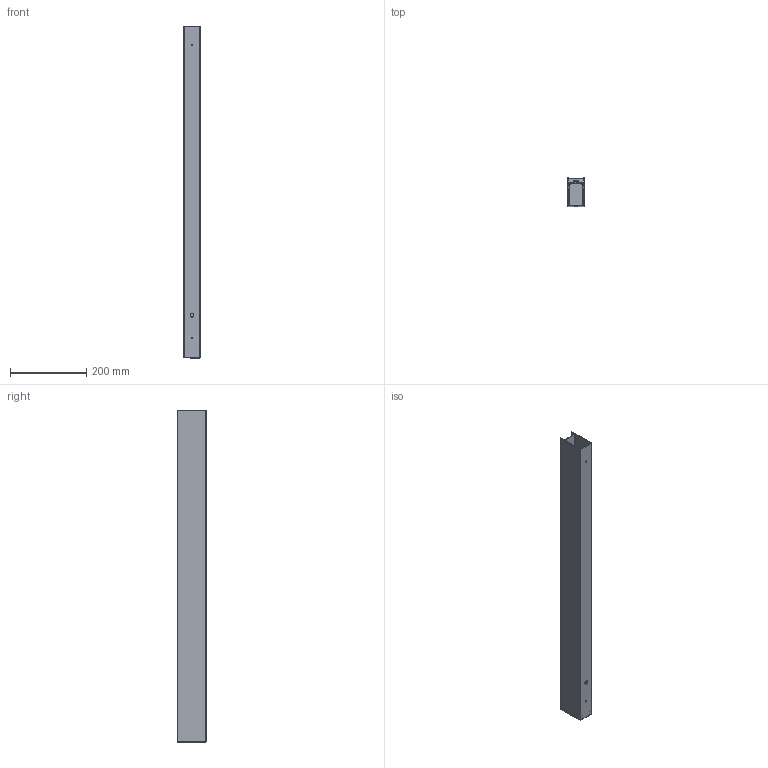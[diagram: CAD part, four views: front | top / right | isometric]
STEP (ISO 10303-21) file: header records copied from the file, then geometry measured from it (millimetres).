
FILE_DESCRIPTION (( 'STEP AP214' ), '1' );
FILE_NAME ('LINE RP-RF 18 INICIAL.STEP', '2017-08-23T09:46:01', ( 'Ofitecnic3' ), ( 'Microsoft' ), 'SwSTEP 2.0', 'SolidWorks 2016', '' );
FILE_SCHEMA (( 'AUTOMOTIVE_DESIGN' ));
Length unit declared in the file: millimetre
Products named in the file (4): Difusor plástico-BIM_LED-870mm; Tapa (LineR)-BIM; Perfil_extrusion (LineR)-BIM_LR2016-870; LINE RP-RF 18 INICIAL
Assembly tree (3 placements, depth 2):
  LINE RP-RF 18 INICIAL
    Perfil_extrusion (LineR)-BIM_LR2016-870
    Tapa (LineR)-BIM
    Difusor plástico-BIM_LED-870mm
Bounding box: 42.5 x 74.75 x 872.5 mm (x, y, z)
Volume: 376020.3 mm3; surface area: 423183.8 mm2
Topology: 3 solids, 3 shells, 237 faces, 592 edges, 370 vertices
Faces by surface type: plane 108, cylinder 86, bspline 41, sphere 2
Entity records: 8677 total; most frequent: CARTESIAN_POINT 3301, ORIENTED_EDGE 1180, DIRECTION 967, EDGE_CURVE 590, VERTEX_POINT 370, LINE 355, VECTOR 355, AXIS2_PLACEMENT_3D 306
